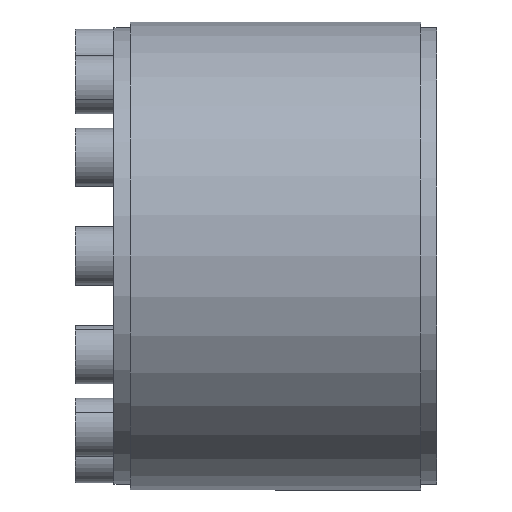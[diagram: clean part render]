
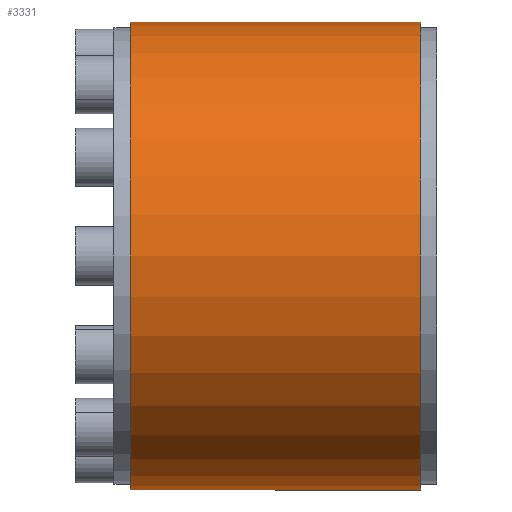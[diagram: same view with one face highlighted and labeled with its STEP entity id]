
A CAD part, front view. The second image highlights one B-rep face of the part: STEP entity #3331.
In plain terms, the highlighted cylindrical face has radius 72.5 mm (diameter 145 mm), a partial arc.
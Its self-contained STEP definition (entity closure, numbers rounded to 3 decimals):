
#1148 = DIRECTION ( 'NONE',  ( 0., 0., 1. ) ) ;
#1149 = DIRECTION ( 'NONE',  ( -1., 0., 0. ) ) ;
#1150 = AXIS2_PLACEMENT_3D ( 'NONE', #1155, #1149, #1148 ) ;
#1151 = CIRCLE ( 'NONE', #1150, 72.5 ) ;
#1155 = CARTESIAN_POINT ( 'NONE',  ( 5., 0., 0. ) ) ;
#2744 = VERTEX_POINT ( 'NONE', #6487 ) ;
#2746 = EDGE_CURVE ( 'NONE', #2744, #2747, #6486, .T. ) ;
#2747 = VERTEX_POINT ( 'NONE', #6482 ) ;
#2750 = VERTEX_POINT ( 'NONE', #6688 ) ;
#2752 = EDGE_CURVE ( 'NONE', #3040, #2750, #6687, .T. ) ;
#3040 = VERTEX_POINT ( 'NONE', #7326 ) ;
#3327 = EDGE_CURVE ( 'NONE', #2744, #3040, #7792, .T. ) ;
#3331 = ADVANCED_FACE ( 'NONE', ( #7787 ), #7786, .T. ) ;
#3332 = EDGE_LOOP ( 'NONE', ( #3333, #3334, #3411, #3502 ) ) ;
#3333 = ORIENTED_EDGE ( 'NONE', *, *, #2746, .F. ) ;
#3334 = ORIENTED_EDGE ( 'NONE', *, *, #3327, .T. ) ;
#3411 = ORIENTED_EDGE ( 'NONE', *, *, #2752, .T. ) ;
#3502 = ORIENTED_EDGE ( 'NONE', *, *, #3503, .F. ) ;
#3503 = EDGE_CURVE ( 'NONE', #2747, #2750, #1151, .T. ) ;
#6482 = CARTESIAN_POINT ( 'NONE',  ( 5., 0., -72.5 ) ) ;
#6483 = DIRECTION ( 'NONE',  ( -1., 0., 0. ) ) ;
#6484 = VECTOR ( 'NONE', #6483, 1000. ) ;
#6485 = CARTESIAN_POINT ( 'NONE',  ( 0., 0., -72.5 ) ) ;
#6486 = LINE ( 'NONE', #6485, #6484 ) ;
#6487 = CARTESIAN_POINT ( 'NONE',  ( 95., 0., -72.5 ) ) ;
#6684 = DIRECTION ( 'NONE',  ( -1., 0., 0. ) ) ;
#6685 = VECTOR ( 'NONE', #6684, 1000. ) ;
#6686 = CARTESIAN_POINT ( 'NONE',  ( 0., 0., 72.5 ) ) ;
#6687 = LINE ( 'NONE', #6686, #6685 ) ;
#6688 = CARTESIAN_POINT ( 'NONE',  ( 5., 0., 72.5 ) ) ;
#7326 = CARTESIAN_POINT ( 'NONE',  ( 95., 0., 72.5 ) ) ;
#7781 = DIRECTION ( 'NONE',  ( 0., 0., 1. ) ) ;
#7782 = DIRECTION ( 'NONE',  ( -1., 0., 0. ) ) ;
#7783 = CARTESIAN_POINT ( 'NONE',  ( 0., 0., 0. ) ) ;
#7784 = AXIS2_PLACEMENT_3D ( 'NONE', #7783, #7782, #7781 ) ;
#7786 = CYLINDRICAL_SURFACE ( 'NONE', #7784, 72.5 ) ;
#7787 = FACE_OUTER_BOUND ( 'NONE', #3332, .T. ) ;
#7788 = DIRECTION ( 'NONE',  ( 0., 0., 1. ) ) ;
#7789 = DIRECTION ( 'NONE',  ( -1., 0., 0. ) ) ;
#7790 = CARTESIAN_POINT ( 'NONE',  ( 95., 0., 0. ) ) ;
#7791 = AXIS2_PLACEMENT_3D ( 'NONE', #7790, #7789, #7788 ) ;
#7792 = CIRCLE ( 'NONE', #7791, 72.5 ) ;
